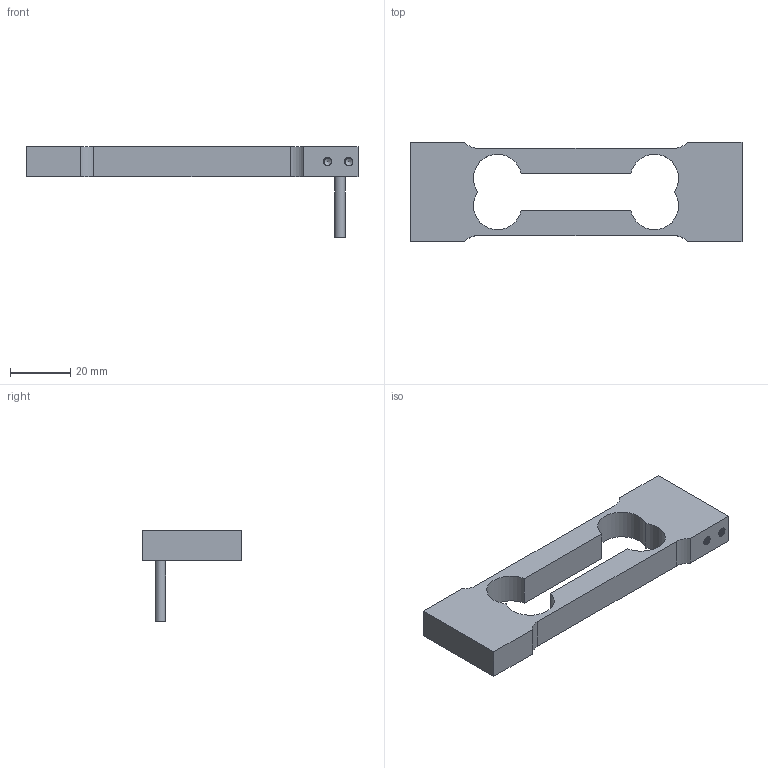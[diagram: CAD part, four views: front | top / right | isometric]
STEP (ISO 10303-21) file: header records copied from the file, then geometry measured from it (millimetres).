
FILE_DESCRIPTION(/* description */ (''),/* implementation_level */ '2;1');
FILE_NAME(/* name */ 'C:/Users/fardi/Dropbox/Anyload/Load Cell Models/3D Drawing/108/108PA/108PA-(0.75-6)kg v2.step',/* time_stamp */ '2020-01-28T10:57:04-08:00',/* author */ (''),/* organization */ (''),/* preprocessor_version */ 'ST-DEVELOPER v18',/* originating_system */ 'Autodesk Translation Framework v8.12.0.6',/* authorisation */ '');
FILE_SCHEMA (('AUTOMOTIVE_DESIGN { 1 0 10303 214 3 1 1 }'));
Length unit declared in the file: millimetre
Products named in the file (1): 108PA-(0.75-6)kg
Bounding box: 110 x 33 x 30 mm (x, y, z)
Volume: 22285.4 mm3; surface area: 10210.1 mm2
Topology: 1 solids, 1 shells, 286 faces, 745 edges, 462 vertices
Faces by surface type: cylinder 257, plane 17, bspline 8, cone 4
Full cylindrical faces by diameter (mm): 2.529 x120, 3.086 x112, 3.5 x1
Entity records: 19860 total; most frequent: CARTESIAN_POINT 13710, ORIENTED_EDGE 1482, DIRECTION 925, EDGE_CURVE 741, VERTEX_POINT 462, B_SPLINE_CURVE_WITH_KNOTS 416, AXIS2_PLACEMENT_3D 321, EDGE_LOOP 293
